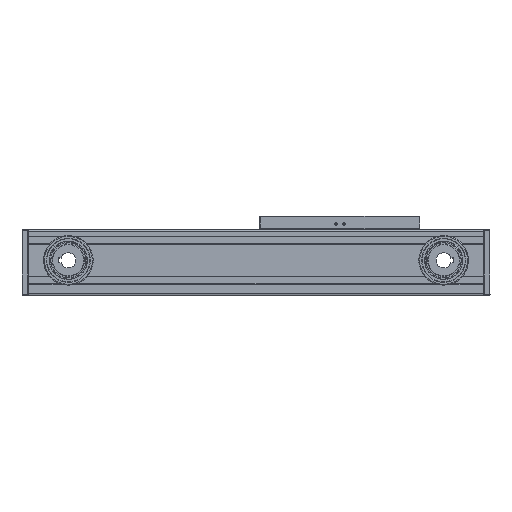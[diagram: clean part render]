
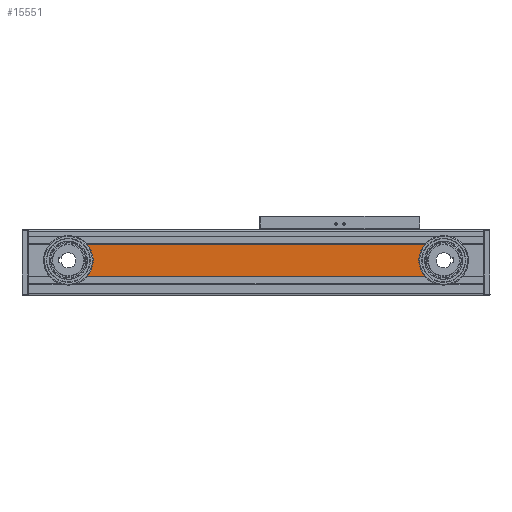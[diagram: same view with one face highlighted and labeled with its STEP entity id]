
A CAD part, top view. The second image highlights one B-rep face of the part: STEP entity #15551.
In plain terms, the highlighted planar face has unit normal (0, 0, 1).
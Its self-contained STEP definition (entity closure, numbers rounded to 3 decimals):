
#1479 = CARTESIAN_POINT ( 'NONE',  ( 331.899, 62.821, 83.366 ) ) ;
#2980 = EDGE_LOOP ( 'NONE', ( #55285, #44591, #62904, #103739 ) ) ;
#3710 = DIRECTION ( 'NONE',  ( 1., 0., 0. ) ) ;
#5004 = DIRECTION ( 'NONE',  ( 0., 0., 1. ) ) ;
#8335 = VERTEX_POINT ( 'NONE', #12367 ) ;
#12128 = VERTEX_POINT ( 'NONE', #1479 ) ;
#12367 = CARTESIAN_POINT ( 'NONE',  ( -91.244, 103.421, 83.366 ) ) ;
#14604 = DIRECTION ( 'NONE',  ( 1., 0., 0. ) ) ;
#15551 = ADVANCED_FACE ( 'NONE', ( #43956 ), #21529, .T. ) ;
#21529 = PLANE ( 'NONE',  #128539 ) ;
#21980 = EDGE_CURVE ( 'NONE', #8335, #115812, #70894, .T. ) ;
#23532 = EDGE_CURVE ( 'NONE', #115812, #12128, #68741, .T. ) ;
#24425 = CARTESIAN_POINT ( 'NONE',  ( 331.899, 103.421, 83.366 ) ) ;
#24588 = AXIS2_PLACEMENT_3D ( 'NONE', #62540, #91516, #102783 ) ;
#26144 = DIRECTION ( 'NONE',  ( 0., 0., 1. ) ) ;
#39521 = CARTESIAN_POINT ( 'NONE',  ( -91.244, 62.821, 83.366 ) ) ;
#40872 = DIRECTION ( 'NONE',  ( -1., 0., 0. ) ) ;
#43772 = CIRCLE ( 'NONE', #117470, 31. ) ;
#43956 = FACE_OUTER_BOUND ( 'NONE', #2980, .T. ) ;
#44591 = ORIENTED_EDGE ( 'NONE', *, *, #73008, .F. ) ;
#55285 = ORIENTED_EDGE ( 'NONE', *, *, #23532, .T. ) ;
#62540 = CARTESIAN_POINT ( 'NONE',  ( -114.672, 83.121, 83.366 ) ) ;
#62751 = CARTESIAN_POINT ( 'NONE',  ( -164.672, 62.821, 83.366 ) ) ;
#62904 = ORIENTED_EDGE ( 'NONE', *, *, #109397, .T. ) ;
#65561 = CARTESIAN_POINT ( 'NONE',  ( 355.328, 83.121, 83.366 ) ) ;
#68741 = LINE ( 'NONE', #62751, #105232 ) ;
#70894 = CIRCLE ( 'NONE', #24588, 31. ) ;
#73008 = EDGE_CURVE ( 'NONE', #104650, #12128, #43772, .T. ) ;
#91495 = VECTOR ( 'NONE', #40872, 1000. ) ;
#91516 = DIRECTION ( 'NONE',  ( 0., 0., -1. ) ) ;
#92201 = CARTESIAN_POINT ( 'NONE',  ( -164.672, 103.421, 83.366 ) ) ;
#95993 = CARTESIAN_POINT ( 'NONE',  ( -164.672, 119.121, 83.366 ) ) ;
#100860 = LINE ( 'NONE', #92201, #91495 ) ;
#102783 = DIRECTION ( 'NONE',  ( -1., 0., 0. ) ) ;
#103739 = ORIENTED_EDGE ( 'NONE', *, *, #21980, .T. ) ;
#104650 = VERTEX_POINT ( 'NONE', #24425 ) ;
#105232 = VECTOR ( 'NONE', #14604, 1000. ) ;
#109397 = EDGE_CURVE ( 'NONE', #104650, #8335, #100860, .T. ) ;
#115812 = VERTEX_POINT ( 'NONE', #39521 ) ;
#117470 = AXIS2_PLACEMENT_3D ( 'NONE', #65561, #5004, #3710 ) ;
#128539 = AXIS2_PLACEMENT_3D ( 'NONE', #95993, #26144, #130083 ) ;
#130083 = DIRECTION ( 'NONE',  ( 1., 0., 0. ) ) ;
